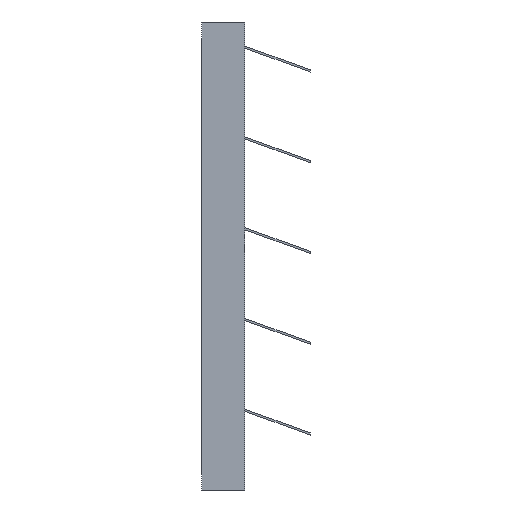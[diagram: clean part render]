
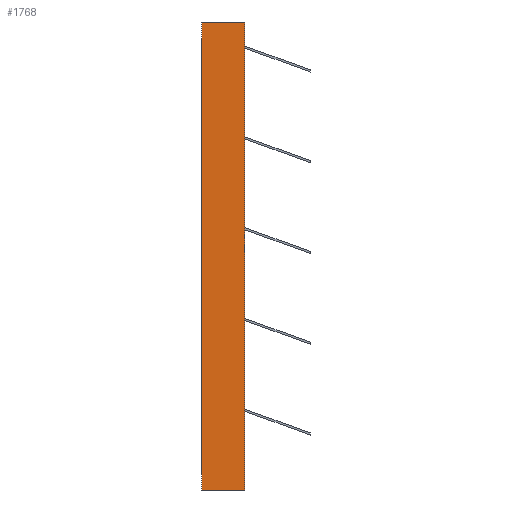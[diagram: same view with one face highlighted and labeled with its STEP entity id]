
A CAD part, left-side view. The second image highlights one B-rep face of the part: STEP entity #1768.
In plain terms, the highlighted planar face has unit normal (-1, 0, 0).
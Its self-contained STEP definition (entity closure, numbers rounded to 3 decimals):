
#246=LINE('',#2764,#486);
#251=LINE('',#2774,#491);
#252=LINE('',#2777,#492);
#253=LINE('',#2778,#493);
#486=VECTOR('',#2278,10.);
#491=VECTOR('',#2287,10.);
#492=VECTOR('',#2290,10.);
#493=VECTOR('',#2291,10.);
#572=PLANE('',#1868);
#672=FACE_OUTER_BOUND('',#766,.T.);
#766=EDGE_LOOP('',(#1659,#1660,#1661,#1662));
#927=VERTEX_POINT('',#2757);
#930=VERTEX_POINT('',#2762);
#933=VERTEX_POINT('',#2772);
#934=VERTEX_POINT('',#2776);
#1174=EDGE_CURVE('',#930,#927,#246,.T.);
#1179=EDGE_CURVE('',#933,#930,#251,.T.);
#1180=EDGE_CURVE('',#934,#933,#252,.T.);
#1181=EDGE_CURVE('',#927,#934,#253,.T.);
#1659=ORIENTED_EDGE('',*,*,#1179,.F.);
#1660=ORIENTED_EDGE('',*,*,#1180,.F.);
#1661=ORIENTED_EDGE('',*,*,#1181,.F.);
#1662=ORIENTED_EDGE('',*,*,#1174,.F.);
#1768=ADVANCED_FACE('',(#672),#572,.T.);
#1868=AXIS2_PLACEMENT_3D('',#2775,#2288,#2289);
#2278=DIRECTION('',(0.,0.,-1.));
#2287=DIRECTION('',(0.,-1.,0.));
#2288=DIRECTION('center_axis',(-1.,0.,0.));
#2289=DIRECTION('ref_axis',(0.,0.,1.));
#2290=DIRECTION('',(0.,0.,1.));
#2291=DIRECTION('',(0.,1.,0.));
#2757=CARTESIAN_POINT('',(-342.5,-20.,-217.5));
#2762=CARTESIAN_POINT('',(-342.5,-20.,217.5));
#2764=CARTESIAN_POINT('',(-342.5,-20.,217.5));
#2772=CARTESIAN_POINT('',(-342.5,20.,217.5));
#2774=CARTESIAN_POINT('',(-342.5,0.,217.5));
#2775=CARTESIAN_POINT('Origin',(-342.5,0.,-217.5));
#2776=CARTESIAN_POINT('',(-342.5,20.,-217.5));
#2777=CARTESIAN_POINT('',(-342.5,20.,217.5));
#2778=CARTESIAN_POINT('',(-342.5,0.,-217.5));
